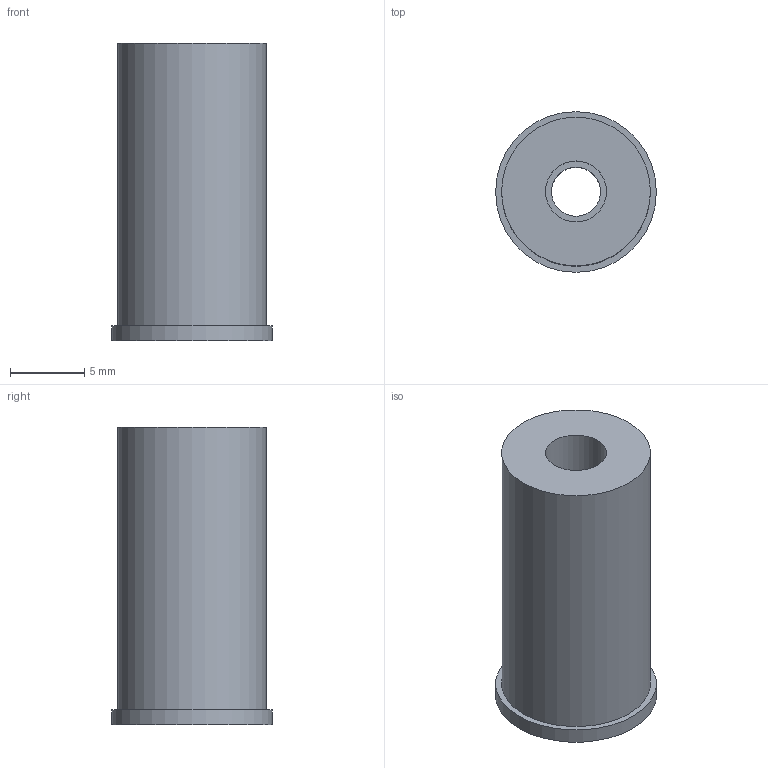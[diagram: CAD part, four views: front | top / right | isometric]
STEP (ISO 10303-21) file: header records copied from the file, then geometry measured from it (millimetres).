
FILE_DESCRIPTION(('Open CASCADE Model'),'2;1');
FILE_NAME('Open CASCADE Shape Model','2026-10-21T12:47:56',('Author'),( 'Open CASCADE'),'Open CASCADE STEP processor 7.9','Open CASCADE 7.9' ,'Unknown');
FILE_SCHEMA(('AUTOMOTIVE_DESIGN { 1 0 10303 214 1 1 1 1 }'));
Length unit declared in the file: millimetre
Products named in the file (1): Open CASCADE STEP translator 7.9 7
Bounding box: 10.8 x 10.8 x 20 mm (x, y, z)
Volume: 1384.9 mm3; surface area: 1019.4 mm2
Topology: 1 solids, 1 shells, 8 faces, 12 edges, 8 vertices
Faces by surface type: cylinder 4, plane 4
Full cylindrical faces by diameter (mm): 3.3 x1, 4.1 x1, 10 x1, 10.8 x1
Entity records: 354 total; most frequent: DIRECTION 62, CARTESIAN_POINT 53, ORIENTED_EDGE 24, PCURVE 24, DEFINITIONAL_REPRESENTATION 24, LINE 20, VECTOR 20, AXIS2_PLACEMENT_3D 17
